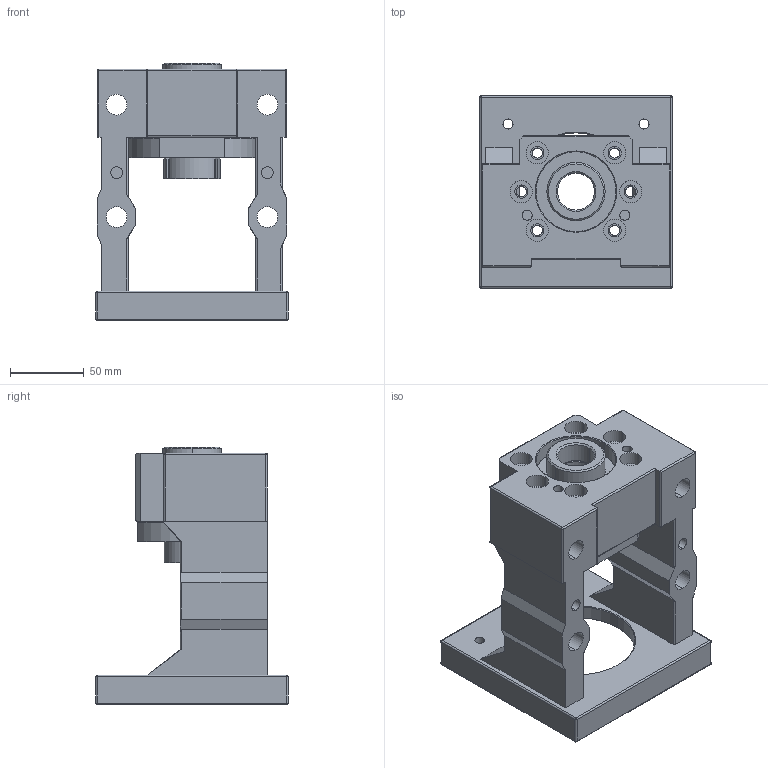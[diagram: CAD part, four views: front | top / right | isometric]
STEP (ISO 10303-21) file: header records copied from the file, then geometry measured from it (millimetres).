
FILE_DESCRIPTION((''),'2;1');
FILE_NAME('M116S-SBK25-C__ASM','2019-09-26T',('ASUS'),(''),'PRO/ENGINEER BY PARAMETRIC TECHNOLOGY CORPORATION, 2010280','PRO/ENGINEER BY PARAMETRIC TECHNOLOGY CORPORATION, 2010280','');
FILE_SCHEMA(('CONFIG_CONTROL_DESIGN'));
Length unit declared in the file: millimetre
Products named in the file (6): PRT0018; PRT0019; PRT0020; PRT0022; M116S-SBK25-C_____________ASM; M116S-SBK25-C__ASM
Assembly tree (6 placements, depth 3):
  M116S-SBK25-C__ASM
    M116S-SBK25-C_____________ASM
      PRT0018
      PRT0019
      PRT0020
      PRT0022  x2
Bounding box: 130 x 130 x 174 mm (x, y, z)
Volume: 869155.5 mm3; surface area: 162874.3 mm2
Topology: 5 solids, 5 shells, 285 faces, 717 edges, 442 vertices
Faces by surface type: cylinder 146, plane 87, cone 34, sphere 12, torus 4, extrusion 2
Entity records: 8537 total; most frequent: CARTESIAN_POINT 1690, DIRECTION 1467, ORIENTED_EDGE 1346, EDGE_CURVE 673, AXIS2_PLACEMENT_3D 558, VERTEX_POINT 426, VECTOR 351, LINE 349
